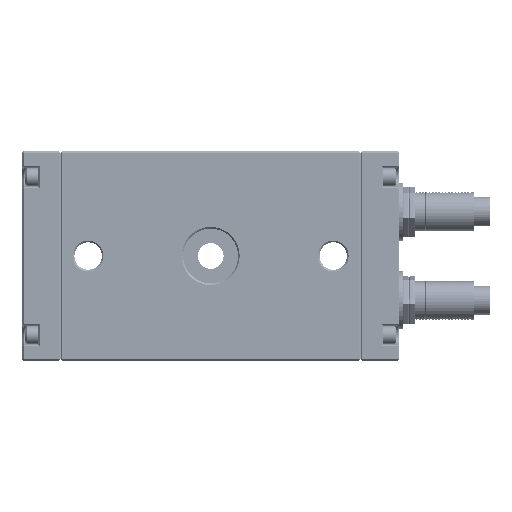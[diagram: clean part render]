
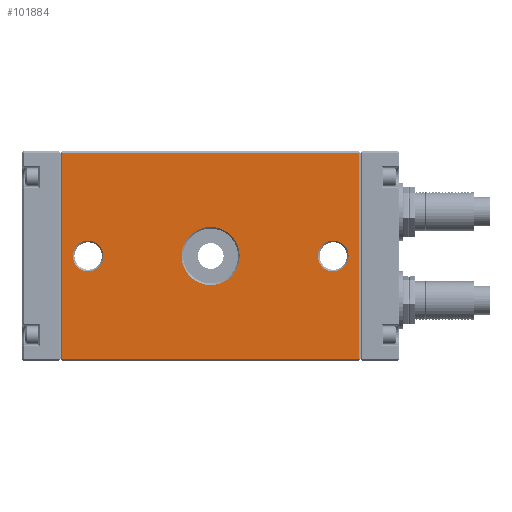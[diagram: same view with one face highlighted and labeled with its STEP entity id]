
A CAD part, front view. The second image highlights one B-rep face of the part: STEP entity #101884.
In plain terms, the highlighted planar face has unit normal (0, -1, 0) as drawn and (0, 0, -1) by its records, which use the part's own axes.
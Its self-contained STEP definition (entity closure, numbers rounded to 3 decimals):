
#98820 = VERTEX_POINT ( 'NONE', #188227 ) ;
#98899 = EDGE_CURVE ( 'NONE', #98919, #98917, #188458, .T. ) ;
#98901 = VERTEX_POINT ( 'NONE', #188420 ) ;
#98912 = VERTEX_POINT ( 'NONE', #188521 ) ;
#98913 = EDGE_CURVE ( 'NONE', #98912, #98901, #188512, .T. ) ;
#98917 = VERTEX_POINT ( 'NONE', #188514 ) ;
#98919 = VERTEX_POINT ( 'NONE', #188519 ) ;
#98930 = EDGE_CURVE ( 'NONE', #98931, #98820, #188507, .T. ) ;
#98931 = VERTEX_POINT ( 'NONE', #188480 ) ;
#101783 = VERTEX_POINT ( 'NONE', #193173 ) ;
#101857 = EDGE_CURVE ( 'NONE', #101998, #101869, #193282, .T. ) ;
#101869 = VERTEX_POINT ( 'NONE', #193276 ) ;
#101871 = EDGE_CURVE ( 'NONE', #101869, #101911, #193224, .T. ) ;
#101873 = ORIENTED_EDGE ( 'NONE', *, *, #101889, .T. ) ;
#101875 = ORIENTED_EDGE ( 'NONE', *, *, #101871, .T. ) ;
#101876 = ORIENTED_EDGE ( 'NONE', *, *, #101877, .T. ) ;
#101877 = EDGE_CURVE ( 'NONE', #101911, #101783, #193230, .T. ) ;
#101878 = ORIENTED_EDGE ( 'NONE', *, *, #101995, .T. ) ;
#101882 = ORIENTED_EDGE ( 'NONE', *, *, #101887, .T. ) ;
#101884 = ADVANCED_FACE ( 'NONE', ( #193287, #193272, #193286, #193271 ), #193270, .T. ) ;
#101887 = EDGE_CURVE ( 'NONE', #98917, #98919, #193263, .T. ) ;
#101889 = EDGE_CURVE ( 'NONE', #98820, #98931, #193318, .T. ) ;
#101892 = EDGE_LOOP ( 'NONE', ( #101875, #101876, #101878, #101999 ) ) ;
#101893 = ORIENTED_EDGE ( 'NONE', *, *, #98899, .T. ) ;
#101895 = ORIENTED_EDGE ( 'NONE', *, *, #101900, .T. ) ;
#101897 = EDGE_LOOP ( 'NONE', ( #101899, #101873 ) ) ;
#101898 = ORIENTED_EDGE ( 'NONE', *, *, #98913, .T. ) ;
#101899 = ORIENTED_EDGE ( 'NONE', *, *, #98930, .T. ) ;
#101900 = EDGE_CURVE ( 'NONE', #98901, #98912, #193260, .T. ) ;
#101903 = EDGE_LOOP ( 'NONE', ( #101898, #101895 ) ) ;
#101911 = VERTEX_POINT ( 'NONE', #193294 ) ;
#101917 = EDGE_LOOP ( 'NONE', ( #101893, #101882 ) ) ;
#101995 = EDGE_CURVE ( 'NONE', #101783, #101998, #193379, .T. ) ;
#101998 = VERTEX_POINT ( 'NONE', #193435 ) ;
#101999 = ORIENTED_EDGE ( 'NONE', *, *, #101857, .T. ) ;
#188227 = CARTESIAN_POINT ( 'NONE',  ( 55.5, 32.5, 0. ) ) ;
#188413 = DIRECTION ( 'NONE',  ( -1., 0., 0. ) ) ;
#188415 = DIRECTION ( 'NONE',  ( 0., 0., 1. ) ) ;
#188420 = CARTESIAN_POINT ( 'NONE',  ( 89.25, 32.5, 0. ) ) ;
#188458 = CIRCLE ( 'NONE', #188464, 4.75 ) ;
#188461 = CARTESIAN_POINT ( 'NONE',  ( 8.5, 32.5, 0. ) ) ;
#188464 = AXIS2_PLACEMENT_3D ( 'NONE', #188461, #188415, #188413 ) ;
#188473 = DIRECTION ( 'NONE',  ( -1., 0., 0. ) ) ;
#188474 = DIRECTION ( 'NONE',  ( 0., 0., 1. ) ) ;
#188480 = CARTESIAN_POINT ( 'NONE',  ( 37.5, 32.5, 0. ) ) ;
#188501 = CARTESIAN_POINT ( 'NONE',  ( 46.5, 32.5, 0. ) ) ;
#188504 = AXIS2_PLACEMENT_3D ( 'NONE', #188501, #188474, #188473 ) ;
#188507 = CIRCLE ( 'NONE', #188504, 9. ) ;
#188508 = DIRECTION ( 'NONE',  ( -1., 0., 0. ) ) ;
#188509 = DIRECTION ( 'NONE',  ( 0., 0., 1. ) ) ;
#188510 = CARTESIAN_POINT ( 'NONE',  ( 84.5, 32.5, 0. ) ) ;
#188511 = AXIS2_PLACEMENT_3D ( 'NONE', #188510, #188509, #188508 ) ;
#188512 = CIRCLE ( 'NONE', #188511, 4.75 ) ;
#188514 = CARTESIAN_POINT ( 'NONE',  ( 13.25, 32.5, 0. ) ) ;
#188519 = CARTESIAN_POINT ( 'NONE',  ( 3.75, 32.5, 0. ) ) ;
#188521 = CARTESIAN_POINT ( 'NONE',  ( 79.75, 32.5, 0. ) ) ;
#193173 = CARTESIAN_POINT ( 'NONE',  ( 0.5, 64.5, 0. ) ) ;
#193223 = CARTESIAN_POINT ( 'NONE',  ( 0., 0.5, 0. ) ) ;
#193224 = LINE ( 'NONE', #193223, #193269 ) ;
#193230 = LINE ( 'NONE', #193267, #193266 ) ;
#193255 = CARTESIAN_POINT ( 'NONE',  ( 84.5, 32.5, 0. ) ) ;
#193257 = DIRECTION ( 'NONE',  ( -1., 0., 0. ) ) ;
#193258 = DIRECTION ( 'NONE',  ( 0., 0., -1. ) ) ;
#193259 = CARTESIAN_POINT ( 'NONE',  ( 0., 65., 0. ) ) ;
#193260 = CIRCLE ( 'NONE', #193310, 4.75 ) ;
#193263 = CIRCLE ( 'NONE', #193322, 4.75 ) ;
#193264 = AXIS2_PLACEMENT_3D ( 'NONE', #193259, #193258, #193257 ) ;
#193265 = DIRECTION ( 'NONE',  ( 0., 1., 0. ) ) ;
#193266 = VECTOR ( 'NONE', #193265, 1000. ) ;
#193267 = CARTESIAN_POINT ( 'NONE',  ( 0.5, 65., 0. ) ) ;
#193268 = DIRECTION ( 'NONE',  ( -1., 0., 0. ) ) ;
#193269 = VECTOR ( 'NONE', #193268, 1000. ) ;
#193270 = PLANE ( 'NONE',  #193264 ) ;
#193271 = FACE_OUTER_BOUND ( 'NONE', #101892, .T. ) ;
#193272 = FACE_BOUND ( 'NONE', #101903, .T. ) ;
#193276 = CARTESIAN_POINT ( 'NONE',  ( 92.5, 0.5, 0. ) ) ;
#193278 = DIRECTION ( 'NONE',  ( 0., -1., 0. ) ) ;
#193279 = VECTOR ( 'NONE', #193278, 1000. ) ;
#193280 = CARTESIAN_POINT ( 'NONE',  ( 92.5, 0., 0. ) ) ;
#193282 = LINE ( 'NONE', #193280, #193279 ) ;
#193286 = FACE_BOUND ( 'NONE', #101897, .T. ) ;
#193287 = FACE_BOUND ( 'NONE', #101917, .T. ) ;
#193294 = CARTESIAN_POINT ( 'NONE',  ( 0.5, 0.5, 0. ) ) ;
#193308 = DIRECTION ( 'NONE',  ( -1., 0., 0. ) ) ;
#193309 = DIRECTION ( 'NONE',  ( 0., 0., 1. ) ) ;
#193310 = AXIS2_PLACEMENT_3D ( 'NONE', #193255, #193309, #193308 ) ;
#193314 = DIRECTION ( 'NONE',  ( -1., 0., 0. ) ) ;
#193315 = DIRECTION ( 'NONE',  ( 0., 0., 1. ) ) ;
#193316 = CARTESIAN_POINT ( 'NONE',  ( 46.5, 32.5, 0. ) ) ;
#193317 = AXIS2_PLACEMENT_3D ( 'NONE', #193316, #193315, #193314 ) ;
#193318 = CIRCLE ( 'NONE', #193317, 9. ) ;
#193319 = DIRECTION ( 'NONE',  ( -1., 0., 0. ) ) ;
#193320 = DIRECTION ( 'NONE',  ( 0., 0., 1. ) ) ;
#193321 = CARTESIAN_POINT ( 'NONE',  ( 8.5, 32.5, 0. ) ) ;
#193322 = AXIS2_PLACEMENT_3D ( 'NONE', #193321, #193320, #193319 ) ;
#193375 = DIRECTION ( 'NONE',  ( 1., 0., 0. ) ) ;
#193376 = VECTOR ( 'NONE', #193375, 1000. ) ;
#193378 = CARTESIAN_POINT ( 'NONE',  ( 93., 64.5, 0. ) ) ;
#193379 = LINE ( 'NONE', #193378, #193376 ) ;
#193435 = CARTESIAN_POINT ( 'NONE',  ( 92.5, 64.5, 0. ) ) ;
